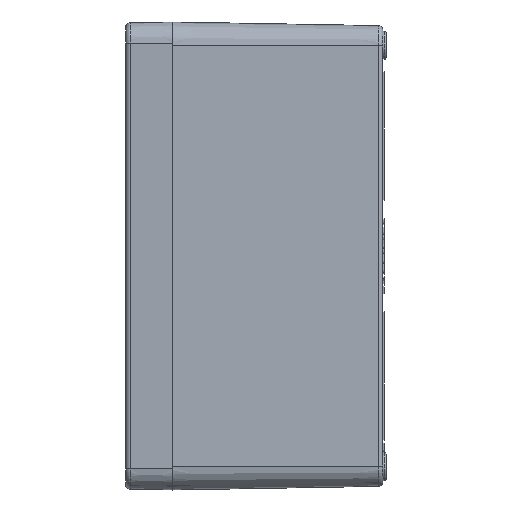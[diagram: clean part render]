
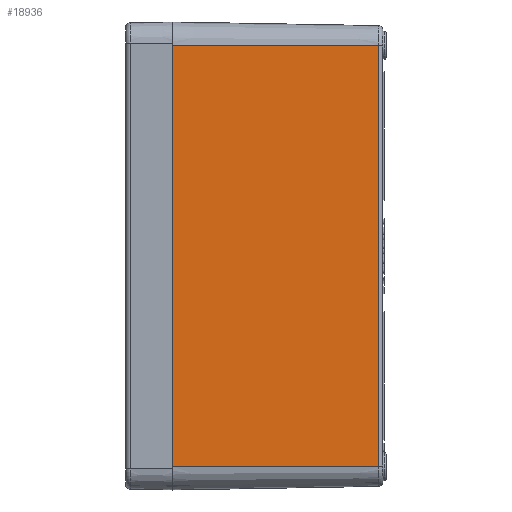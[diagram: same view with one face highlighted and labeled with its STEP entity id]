
A CAD part, left-side view. The second image highlights one B-rep face of the part: STEP entity #18936.
In plain terms, the highlighted planar face has unit normal (-1, -0.018, 0) as drawn and (-1, 0, -0.017) by its records, which use the part's own axes.
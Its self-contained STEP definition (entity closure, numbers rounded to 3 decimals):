
#1869=LINE('',#32729,#3520);
#1905=LINE('',#32955,#3556);
#1907=LINE('',#32961,#3558);
#1908=LINE('',#32962,#3559);
#3520=VECTOR('',#23406,180.);
#3556=VECTOR('',#23700,88.048);
#3558=VECTOR('',#23706,88.048);
#3559=VECTOR('',#23707,180.);
#4446=PLANE('',#20133);
#5782=FACE_OUTER_BOUND('',#7081,.T.);
#7081=EDGE_LOOP('',(#16201,#16202,#16203,#16204));
#9311=VERTEX_POINT('',#32719);
#9312=VERTEX_POINT('',#32723);
#9374=VERTEX_POINT('',#32954);
#9376=VERTEX_POINT('',#32960);
#11666=EDGE_CURVE('',#9311,#9312,#1869,.T.);
#11756=EDGE_CURVE('',#9374,#9312,#1905,.T.);
#11759=EDGE_CURVE('',#9376,#9311,#1907,.T.);
#11760=EDGE_CURVE('',#9374,#9376,#1908,.T.);
#16201=ORIENTED_EDGE('',*,*,#11666,.F.);
#16202=ORIENTED_EDGE('',*,*,#11759,.F.);
#16203=ORIENTED_EDGE('',*,*,#11760,.F.);
#16204=ORIENTED_EDGE('',*,*,#11756,.T.);
#18936=ADVANCED_FACE('',(#5782),#4446,.T.);
#20133=AXIS2_PLACEMENT_3D('',#32959,#23704,#23705);
#23406=DIRECTION('',(0.,1.,0.));
#23700=DIRECTION('',(0.017,0.,-1.));
#23704=DIRECTION('center_axis',(-1.,0.,-0.017));
#23705=DIRECTION('ref_axis',(0.,1.,0.));
#23706=DIRECTION('',(0.017,0.,-1.));
#23707=DIRECTION('',(0.,-1.,0.));
#32719=CARTESIAN_POINT('',(-113.463,-90.,-88.035));
#32723=CARTESIAN_POINT('',(-113.463,90.,-88.035));
#32729=CARTESIAN_POINT('',(-113.463,45.,-88.035));
#32954=CARTESIAN_POINT('',(-115.,90.,0.));
#32955=CARTESIAN_POINT('',(-115.,90.,0.));
#32959=CARTESIAN_POINT('Origin',(-115.,90.,0.));
#32960=CARTESIAN_POINT('',(-115.,-90.,0.));
#32961=CARTESIAN_POINT('',(-115.,-90.,0.));
#32962=CARTESIAN_POINT('',(-115.,90.,0.));
